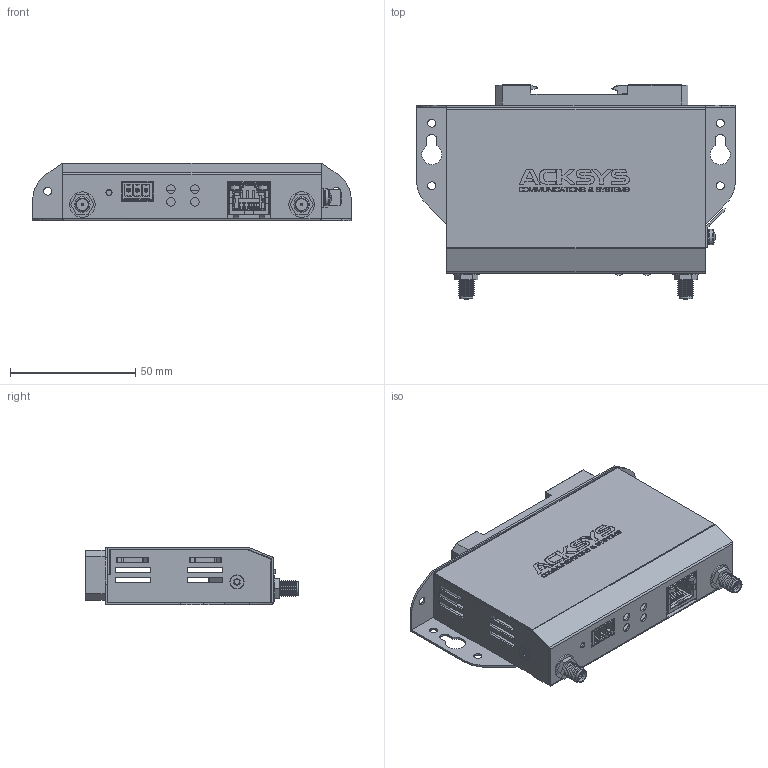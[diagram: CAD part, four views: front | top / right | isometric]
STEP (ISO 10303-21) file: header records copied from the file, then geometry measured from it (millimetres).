
FILE_DESCRIPTION(/* description */ (''),/* implementation_level */ '2;1');
FILE_NAME(/* name */ 'D:\Documents\ME2187-AirLink.stp',/* time_stamp */ '2019-01-09T17:20:55+01:00',/* author */ ('Jonathan'),/* organization */ ('Unknown'),/* preprocessor_version */ 'ST-DEVELOPER v16.1',/* originating_system */ 'AutoCAD Mechanical',/* authorisation */ ' ');
FILE_SCHEMA (('AUTOMOTIVE_DESIGN { 1 0 10303 214 3 1 1 }'));
Products named in the file (5): 1844223_05; J3; dinm12-rc; 09654P__4__8-mattssons; Product
Assembly tree (5 placements, depth 3):
  Product
    J3
      1844223_05
    dinm12-rc
    09654P__4__8-mattssons  x2
Bounding box: 127 x 85.25 x 23 mm (x, y, z)
Volume: 19894.7 mm3; surface area: 61791.1 mm2
Topology: 16 solids, 1727 shells, 3378 faces, 13925 edges, 12295 vertices
Faces by surface type: plane 2580, cylinder 501, cone 115, bspline 109, torus 53, sphere 20
Full cylindrical faces by diameter (mm): 0.457 x1, 1 x2, 1.2 x3, 1.25 x3, 1.6 x2, 2.4 x1, 3 x4, 3.2 x7, 3.302 x1, 3.4 x4, 4 x16, 4.2 x2, 4.6 x8, 5.3 x2, 6.3 x1, 7.12 x2, 7.5 x2, 10.2 x2
Entity records: 162814 total; most frequent: CARTESIAN_POINT 48553, DIRECTION 21439, ORIENTED_EDGE 17984, EDGE_CURVE 13581, VERTEX_POINT 12149, LINE 11129, VECTOR 11129, AXIS2_PLACEMENT_3D 5155
